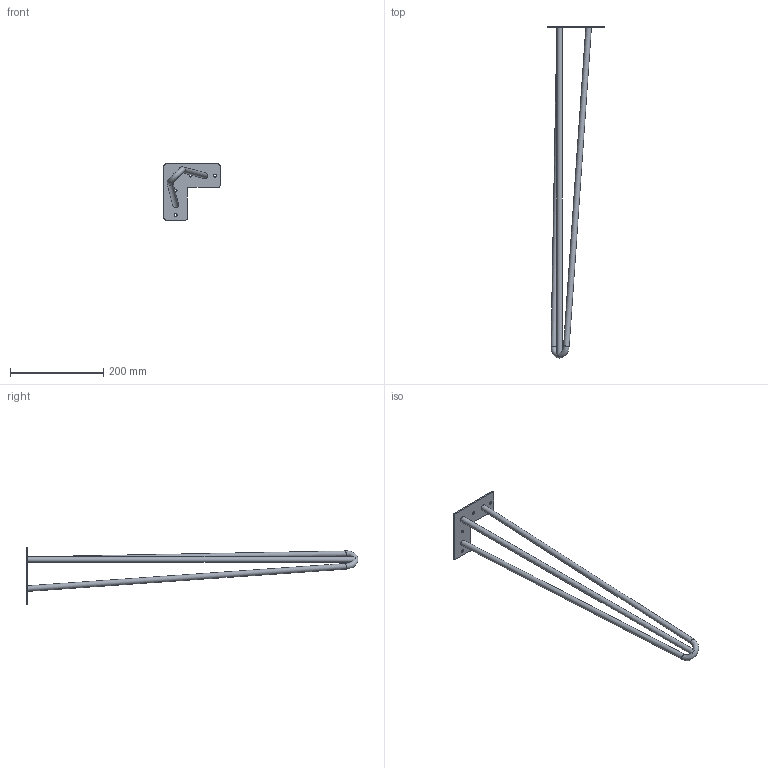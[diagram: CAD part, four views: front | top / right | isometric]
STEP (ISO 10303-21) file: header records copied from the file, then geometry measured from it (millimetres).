
FILE_DESCRIPTION(/* description */ (''),/* implementation_level */ '2;1');
FILE_NAME(/* name */ 'D:\$WorkingFolder\Designs\Meblowka\Nóżki meblowe\NM-ARTO\NM-ARTO-..-.R...-20M\NM-ARTO-12-3R711-20M.stp',/* time_stamp */ '2020-11-09T12:03:54+01:00',/* author */ ('ElizaL'),/* organization */ (''),/* preprocessor_version */ 'ST-DEVELOPER v18.1',/* originating_system */ 'Autodesk Inventor 2020',/* authorisation */ '');
FILE_SCHEMA (('AUTOMOTIVE_DESIGN { 1 0 10303 214 3 1 1 }'));
Length unit declared in the file: millimetre
Products named in the file (1): NM-ARTO-12-3R711-20M
Bounding box: 120 x 710.88 x 120 mm (x, y, z)
Volume: 269185.3 mm3; surface area: 101542.3 mm2
Topology: 3 solids, 3 shells, 36 faces, 93 edges, 66 vertices
Faces by surface type: cylinder 20, plane 15, torus 1
Full cylindrical faces by diameter (mm): 6 x4, 12 x8
Entity records: 1241 total; most frequent: CARTESIAN_POINT 244, DIRECTION 216, ORIENTED_EDGE 186, EDGE_CURVE 93, AXIS2_PLACEMENT_3D 90, VERTEX_POINT 66, EDGE_LOOP 47, CIRCLE 45
